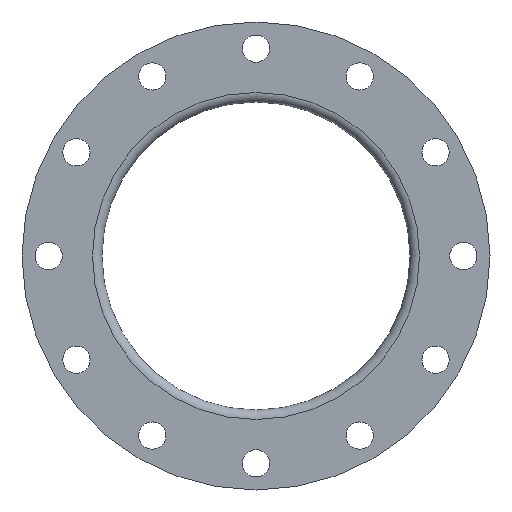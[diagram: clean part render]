
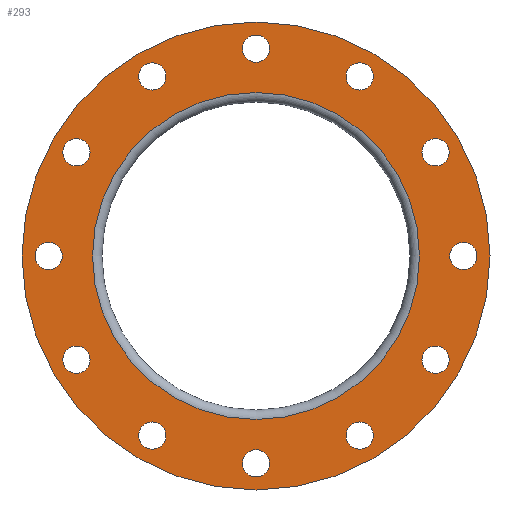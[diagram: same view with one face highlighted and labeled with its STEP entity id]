
A CAD part, front view. The second image highlights one B-rep face of the part: STEP entity #293.
In plain terms, the highlighted planar face has unit normal (0, -1, 0).
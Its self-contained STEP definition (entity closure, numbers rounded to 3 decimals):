
#13=PLANE($,#316);
#31=FACE_BOUND($,#92,.T.);
#32=FACE_BOUND($,#93,.T.);
#33=FACE_BOUND($,#94,.T.);
#34=FACE_BOUND($,#95,.T.);
#35=FACE_BOUND($,#96,.T.);
#36=FACE_BOUND($,#97,.T.);
#37=FACE_BOUND($,#98,.T.);
#38=FACE_BOUND($,#99,.T.);
#39=FACE_BOUND($,#100,.T.);
#40=FACE_BOUND($,#101,.T.);
#41=FACE_BOUND($,#102,.T.);
#42=FACE_BOUND($,#103,.T.);
#43=FACE_BOUND($,#104,.T.);
#73=FACE_OUTER_BOUND($,#91,.T.);
#91=EDGE_LOOP($,(#236));
#92=EDGE_LOOP($,(#237));
#93=EDGE_LOOP($,(#238));
#94=EDGE_LOOP($,(#239));
#95=EDGE_LOOP($,(#240));
#96=EDGE_LOOP($,(#241));
#97=EDGE_LOOP($,(#242));
#98=EDGE_LOOP($,(#243));
#99=EDGE_LOOP($,(#244));
#100=EDGE_LOOP($,(#245));
#101=EDGE_LOOP($,(#246));
#102=EDGE_LOOP($,(#247));
#103=EDGE_LOOP($,(#248));
#104=EDGE_LOOP($,(#249));
#146=CIRCLE($,#313,138.);
#148=CIRCLE($,#317,197.5);
#149=CIRCLE($,#318,11.5);
#150=CIRCLE($,#319,11.5);
#151=CIRCLE($,#320,11.5);
#152=CIRCLE($,#321,11.5);
#153=CIRCLE($,#322,11.5);
#154=CIRCLE($,#323,11.5);
#155=CIRCLE($,#324,11.5);
#156=CIRCLE($,#325,11.5);
#157=CIRCLE($,#326,11.5);
#158=CIRCLE($,#327,11.5);
#159=CIRCLE($,#328,11.5);
#160=CIRCLE($,#329,11.5);
#175=VERTEX_POINT($,#455);
#177=VERTEX_POINT($,#461);
#178=VERTEX_POINT($,#463);
#179=VERTEX_POINT($,#465);
#180=VERTEX_POINT($,#467);
#181=VERTEX_POINT($,#469);
#182=VERTEX_POINT($,#471);
#183=VERTEX_POINT($,#473);
#184=VERTEX_POINT($,#475);
#185=VERTEX_POINT($,#477);
#186=VERTEX_POINT($,#479);
#187=VERTEX_POINT($,#481);
#188=VERTEX_POINT($,#483);
#189=VERTEX_POINT($,#485);
#204=EDGE_CURVE($,#175,#175,#146,.T.);
#206=EDGE_CURVE($,#177,#177,#148,.T.);
#207=EDGE_CURVE($,#178,#178,#149,.T.);
#208=EDGE_CURVE($,#179,#179,#150,.T.);
#209=EDGE_CURVE($,#180,#180,#151,.T.);
#210=EDGE_CURVE($,#181,#181,#152,.T.);
#211=EDGE_CURVE($,#182,#182,#153,.T.);
#212=EDGE_CURVE($,#183,#183,#154,.T.);
#213=EDGE_CURVE($,#184,#184,#155,.T.);
#214=EDGE_CURVE($,#185,#185,#156,.T.);
#215=EDGE_CURVE($,#186,#186,#157,.T.);
#216=EDGE_CURVE($,#187,#187,#158,.T.);
#217=EDGE_CURVE($,#188,#188,#159,.T.);
#218=EDGE_CURVE($,#189,#189,#160,.T.);
#236=ORIENTED_EDGE($,*,*,#206,.F.);
#237=ORIENTED_EDGE($,*,*,#207,.T.);
#238=ORIENTED_EDGE($,*,*,#208,.T.);
#239=ORIENTED_EDGE($,*,*,#209,.T.);
#240=ORIENTED_EDGE($,*,*,#210,.T.);
#241=ORIENTED_EDGE($,*,*,#211,.T.);
#242=ORIENTED_EDGE($,*,*,#212,.T.);
#243=ORIENTED_EDGE($,*,*,#213,.T.);
#244=ORIENTED_EDGE($,*,*,#214,.T.);
#245=ORIENTED_EDGE($,*,*,#215,.T.);
#246=ORIENTED_EDGE($,*,*,#216,.T.);
#247=ORIENTED_EDGE($,*,*,#217,.T.);
#248=ORIENTED_EDGE($,*,*,#218,.T.);
#249=ORIENTED_EDGE($,*,*,#204,.F.);
#293=ADVANCED_FACE($,(#73,#31,#32,#33,#34,#35,#36,#37,#38,#39,#40,#41,#42,
#43),#13,.T.);
#313=AXIS2_PLACEMENT_3D($,#456,#363,#364);
#316=AXIS2_PLACEMENT_3D($,#460,#369,#370);
#317=AXIS2_PLACEMENT_3D($,#462,#371,#372);
#318=AXIS2_PLACEMENT_3D($,#464,#373,#374);
#319=AXIS2_PLACEMENT_3D($,#466,#375,#376);
#320=AXIS2_PLACEMENT_3D($,#468,#377,#378);
#321=AXIS2_PLACEMENT_3D($,#470,#379,#380);
#322=AXIS2_PLACEMENT_3D($,#472,#381,#382);
#323=AXIS2_PLACEMENT_3D($,#474,#383,#384);
#324=AXIS2_PLACEMENT_3D($,#476,#385,#386);
#325=AXIS2_PLACEMENT_3D($,#478,#387,#388);
#326=AXIS2_PLACEMENT_3D($,#480,#389,#390);
#327=AXIS2_PLACEMENT_3D($,#482,#391,#392);
#328=AXIS2_PLACEMENT_3D($,#484,#393,#394);
#329=AXIS2_PLACEMENT_3D($,#486,#395,#396);
#363=DIRECTION('center_axis',(0.,-1.,0.));
#364=DIRECTION('ref_axis',(1.,0.,0.));
#369=DIRECTION('center_axis',(0.,-1.,0.));
#370=DIRECTION('ref_axis',(0.,0.,-1.));
#371=DIRECTION('center_axis',(0.,1.,0.));
#372=DIRECTION('ref_axis',(-1.,0.,0.));
#373=DIRECTION('center_axis',(0.,1.,0.));
#374=DIRECTION('ref_axis',(1.,0.,0.));
#375=DIRECTION('center_axis',(0.,1.,0.));
#376=DIRECTION('ref_axis',(0.866,0.,-0.5));
#377=DIRECTION('center_axis',(0.,1.,0.));
#378=DIRECTION('ref_axis',(0.5,0.,-0.866));
#379=DIRECTION('center_axis',(0.,1.,0.));
#380=DIRECTION('ref_axis',(0.,0.,-1.));
#381=DIRECTION('center_axis',(0.,1.,0.));
#382=DIRECTION('ref_axis',(-0.5,0.,-0.866));
#383=DIRECTION('center_axis',(0.,1.,0.));
#384=DIRECTION('ref_axis',(-0.866,0.,-0.5));
#385=DIRECTION('center_axis',(0.,1.,0.));
#386=DIRECTION('ref_axis',(-1.,0.,0.));
#387=DIRECTION('center_axis',(0.,1.,0.));
#388=DIRECTION('ref_axis',(-0.866,0.,0.5));
#389=DIRECTION('center_axis',(0.,1.,0.));
#390=DIRECTION('ref_axis',(-0.5,0.,0.866));
#391=DIRECTION('center_axis',(0.,1.,0.));
#392=DIRECTION('ref_axis',(0.,0.,1.));
#393=DIRECTION('center_axis',(0.,1.,0.));
#394=DIRECTION('ref_axis',(0.5,0.,0.866));
#395=DIRECTION('center_axis',(0.,1.,0.));
#396=DIRECTION('ref_axis',(0.866,0.,0.5));
#455=CARTESIAN_POINT('',(-138.,0.,0.));
#456=CARTESIAN_POINT('Origin',(0.,0.,0.));
#460=CARTESIAN_POINT('Origin',(-98.75,0.,0.));
#461=CARTESIAN_POINT('',(-197.5,0.,0.));
#462=CARTESIAN_POINT('Origin',(0.,0.,0.));
#463=CARTESIAN_POINT('',(163.5,0.,0.));
#464=CARTESIAN_POINT('Origin',(175.,0.,0.));
#465=CARTESIAN_POINT('',(141.595,0.,-81.75));
#466=CARTESIAN_POINT('Origin',(151.554,0.,-87.5));
#467=CARTESIAN_POINT('',(81.75,0.,-141.595));
#468=CARTESIAN_POINT('Origin',(87.5,0.,-151.554));
#469=CARTESIAN_POINT('',(0.,0.,-163.5));
#470=CARTESIAN_POINT('Origin',(0.,0.,-175.));
#471=CARTESIAN_POINT('',(-81.75,0.,-141.595));
#472=CARTESIAN_POINT('Origin',(-87.5,0.,-151.554));
#473=CARTESIAN_POINT('',(-141.595,0.,-81.75));
#474=CARTESIAN_POINT('Origin',(-151.554,0.,-87.5));
#475=CARTESIAN_POINT('',(-163.5,0.,0.));
#476=CARTESIAN_POINT('Origin',(-175.,0.,0.));
#477=CARTESIAN_POINT('',(-141.595,0.,81.75));
#478=CARTESIAN_POINT('Origin',(-151.554,0.,87.5));
#479=CARTESIAN_POINT('',(-81.75,0.,141.595));
#480=CARTESIAN_POINT('Origin',(-87.5,0.,151.554));
#481=CARTESIAN_POINT('',(0.,0.,163.5));
#482=CARTESIAN_POINT('Origin',(0.,0.,175.));
#483=CARTESIAN_POINT('',(81.75,0.,141.595));
#484=CARTESIAN_POINT('Origin',(87.5,0.,151.554));
#485=CARTESIAN_POINT('',(141.595,0.,81.75));
#486=CARTESIAN_POINT('Origin',(151.554,0.,87.5));
